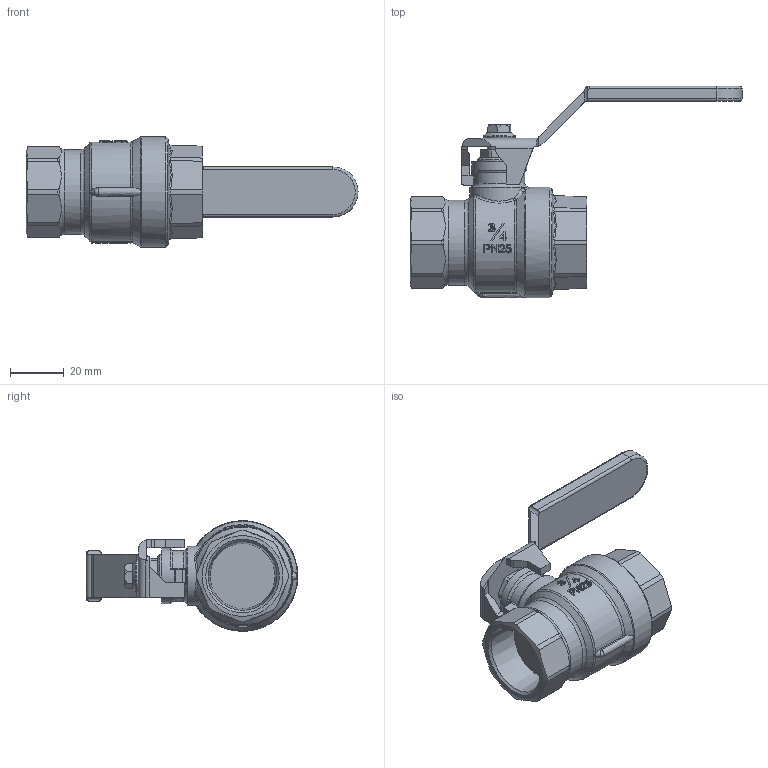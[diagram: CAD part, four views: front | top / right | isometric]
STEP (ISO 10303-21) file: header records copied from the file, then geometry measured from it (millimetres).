
FILE_DESCRIPTION((''),'2;1');
FILE_NAME('P:\Fastrack\53972_CRANE 3D\Ball Valves\Workplace\Crane Ball Valves\D171_3-4in\D171_3-4in.stp','2011-02-10T08:51:10',('btaylor'),(''),'Autodesk Inventor 2008','Autodesk Inventor 2008','');
FILE_SCHEMA(('AUTOMOTIVE_DESIGN { 1 0 10303 214 1 1 1 1 }'));
Length unit declared in the file: millimetre
Products named in the file (1): D171_3-4in
Bounding box: 123.17 x 78.51 x 41 mm (x, y, z)
Volume: 68571.8 mm3; surface area: 18347.2 mm2
Topology: 1 solids, 1 shells, 1192 faces, 3197 edges, 2091 vertices
Faces by surface type: plane 651, bspline 393, cylinder 88, cone 44, torus 16
Full cylindrical faces by diameter (mm): 9 x1, 11.8 x1, 16 x1, 20.5 x1, 31.5 x1, 41 x1
Entity records: 63620 total; most frequent: CARTESIAN_POINT 36404, ORIENTED_EDGE 6324, DIRECTION 4068, EDGE_CURVE 3162, VERTEX_POINT 2082, VECTOR 1892, LINE 1892, EDGE_LOOP 1310
